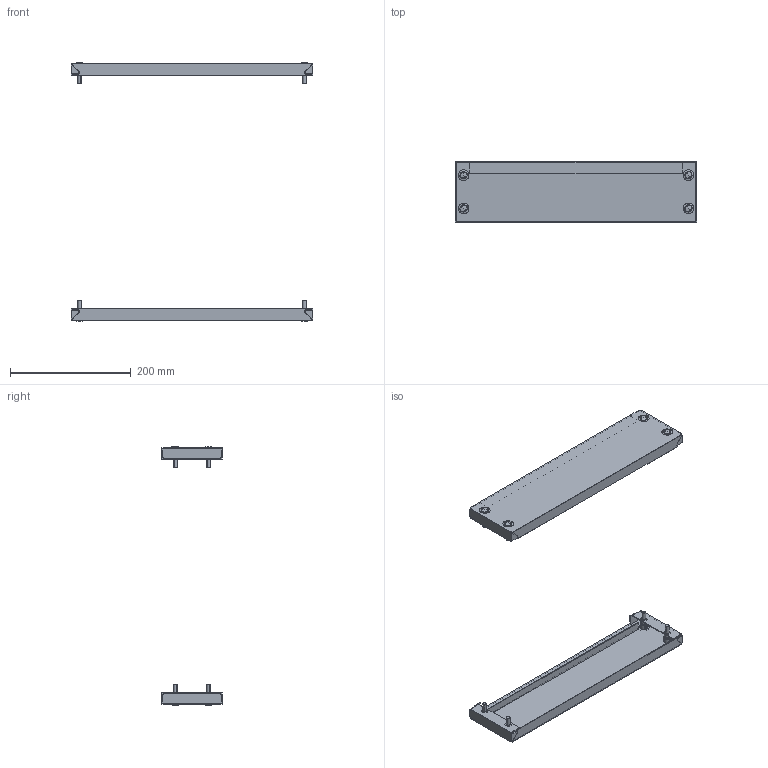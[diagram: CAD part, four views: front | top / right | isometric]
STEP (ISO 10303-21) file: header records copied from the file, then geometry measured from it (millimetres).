
FILE_DESCRIPTION (( 'STEP AP203' ), '1' );
FILE_NAME ('R5FZ4-450.STEP', '2025-06-18T08:28:35', ( '' ), ( '' ), 'SwSTEP 2.0', 'SolidWorks 2022', '' );
FILE_SCHEMA (( 'CONFIG_CONTROL_DESIGN' ));
Length unit declared in the file: millimetre
Products named in the file (5): Plug_11.5-13Д18ЧК_-00; R5FZ4-450; 6 DIN 6798 A Zinc; RB.1055.00.00.0 simple_-00 (400); M6x16 DIN 912 HX cl.4,8 Zinc_stright
Assembly tree (26 placements, depth 2):
  R5FZ4-450
    RB.1055.00.00.0 simple_-00 (400)  x2
    M6x16 DIN 912 HX cl.4,8 Zinc_stright  x8
    6 DIN 6798 A Zinc  x8
    Plug_11.5-13Д18ЧК_-00  x8
Bounding box: 400 x 100.05 x 428.5 mm (x, y, z)
Volume: 206091.3 mm3; surface area: 280424.9 mm2
Topology: 26 solids, 26 shells, 1196 faces, 3456 edges, 2112 vertices
Faces by surface type: plane 700, bspline 208, cylinder 128, cone 96, torus 48, sphere 16
Entity records: 9921 total; most frequent: CARTESIAN_POINT 2626, ORIENTED_EDGE 1352, DIRECTION 1188, EDGE_CURVE 676, VECTOR 448, LINE 448, VERTEX_POINT 444, AXIS2_PLACEMENT_3D 370
